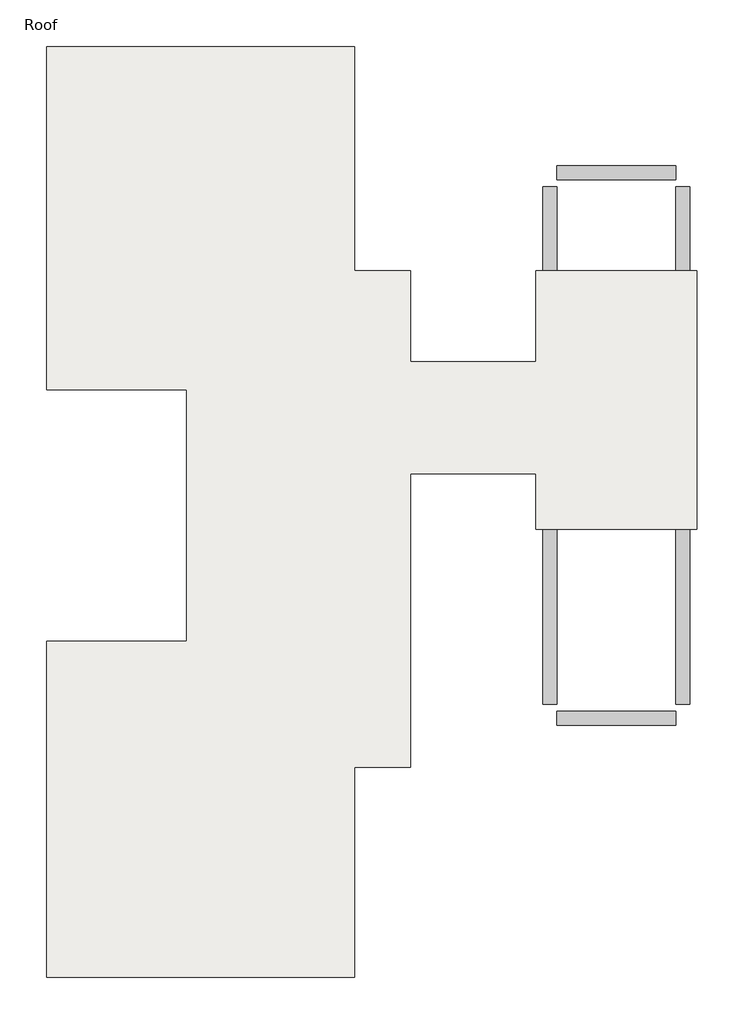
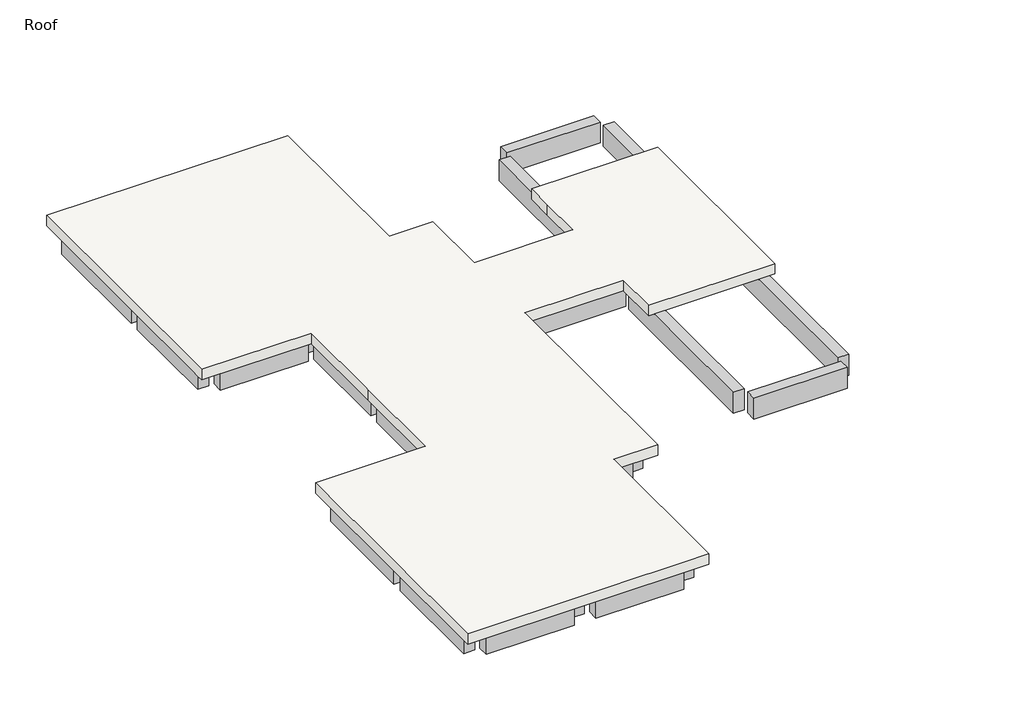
# One storey: 45 beams, 1 slab.
"""IFC4 building model written with IfcOpenShell, lengths in millimetres."""

from ifc_helpers import new_model, si_unit, frame, origin, place, context, project, spatial, polyline, outline, extrude, faceted_brep, element, save

model = new_model("IFC4")

# Units and contexts
model_context = context("Model", 3, world=origin())
ifc_project = project(units=[si_unit("LENGTHUNIT", "METRE", prefix="MILLI")], contexts=[model_context])

# Site, building, storey
site = spatial("IfcSite", under=ifc_project)
building = spatial("IfcBuilding", under=site)
storey = spatial("IfcBuildingStorey", under=building, Name="Roof", Elevation=7620.0)

# Beams
placement = place(None, origin())
element("IfcBeam", 1, ObjectType="Concrete-Rectangular Beam : 12 x 24", at=placement, inside=storey, context=model_context, shape_type="SweptSolid", body=[
    extrude(outline(polyline([(-12629.5554735, 14646.9867088), (-12629.5554735, 14342.1867088), (-15067.9554735, 14342.1867088), (-15067.9554735, 14646.9867088), (-12629.5554735, 14646.9867088)])), frame((0.0, 0.0, 6705.6), z_axis=(0.0, 0.0, 1.0), x_axis=(1.0, 0.0, 0.0)), (0.0, 0.0, 1.0), 609.6),
])
element("IfcBeam", 2, ObjectType="Concrete-Rectangular Beam : 12 x 24", at=placement, inside=storey, context=model_context, shape_type="SweptSolid", body=[
    extrude(outline(polyline([(-9581.5554735, 14646.9867088), (-9581.5554735, 14342.1867088), (-12019.9554735, 14342.1867088), (-12019.9554735, 14646.9867088), (-9581.5554735, 14646.9867088)])), frame((0.0, 0.0, 6705.6), z_axis=(0.0, 0.0, 1.0), x_axis=(1.0, 0.0, 0.0)), (0.0, 0.0, 1.0), 609.6),
])
element("IfcBeam", 3, ObjectType="Concrete-Rectangular Beam : 12 x 24", at=placement, inside=storey, context=model_context, shape_type="SweptSolid", body=[
    extrude(outline(polyline([(-15525.1554735, 14342.1867088), (-15220.3554735, 14342.1867088), (-15220.3554735, 10989.3867088), (-15525.1554735, 10989.3867088), (-15525.1554735, 14342.1867088)])), frame((0.0, 0.0, 6705.6), z_axis=(0.0, 0.0, 1.0), x_axis=(1.0, 0.0, 0.0)), (0.0, 0.0, 1.0), 609.6),
])
element("IfcBeam", 4, ObjectType="Concrete-Rectangular Beam : 12 x 24", at=placement, inside=storey, context=model_context, shape_type="SweptSolid", body=[
    extrude(outline(polyline([(-12629.5554735, 10989.3867088), (-12629.5554735, 10684.5867088), (-15067.9554735, 10684.5867088), (-15067.9554735, 10989.3867088), (-12629.5554735, 10989.3867088)])), frame((0.0, 0.0, 6705.6), z_axis=(0.0, 0.0, 1.0), x_axis=(1.0, 0.0, 0.0)), (0.0, 0.0, 1.0), 609.6),
])
element("IfcBeam", 5, ObjectType="Concrete-Rectangular Beam : 12 x 24", at=placement, inside=storey, context=model_context, shape_type="SweptSolid", body=[
    extrude(outline(polyline([(-12019.9554735, 10684.5867088), (-12019.9554735, 10989.3867088), (-9581.5554735, 10989.3867088), (-9581.5554735, 10684.5867088), (-12019.9554735, 10684.5867088)])), frame((0.0, 0.0, 6705.6), z_axis=(0.0, 0.0, 1.0), x_axis=(1.0, 0.0, 0.0)), (0.0, 0.0, 1.0), 609.6),
])
element("IfcBeam", 6, ObjectType="Concrete-Rectangular Beam : 12 x 24", at=placement, inside=storey, context=model_context, shape_type="SweptSolid", body=[
    extrude(outline(polyline([(-12172.3554735, 10989.3867088), (-12477.1554735, 10989.3867088), (-12477.1554735, 14342.1867088), (-12172.3554735, 14342.1867088), (-12172.3554735, 10989.3867088)])), frame((0.0, 0.0, 6705.6), z_axis=(0.0, 0.0, 1.0), x_axis=(1.0, 0.0, 0.0)), (0.0, 0.0, 1.0), 609.6),
])
element("IfcBeam", 7, ObjectType="Concrete-Rectangular Beam : 12 x 24", at=placement, inside=storey, context=model_context, shape_type="SweptSolid", body=[
    extrude(outline(polyline([(-9124.3554735, 10989.3867088), (-9429.1554735, 10989.3867088), (-9429.1554735, 14342.1867088), (-9124.3554735, 14342.1867088), (-9124.3554735, 10989.3867088)])), frame((0.0, 0.0, 6705.6), z_axis=(0.0, 0.0, 1.0), x_axis=(1.0, 0.0, 0.0)), (0.0, 0.0, 1.0), 609.6),
])
element("IfcBeam", 8, ObjectType="Concrete-Rectangular Beam : 12 x 24", at=placement, inside=storey, context=model_context, shape_type="Brep", body=[
    faceted_brep([(-9124.3554735, 10684.5867088, 7315.2), (-9429.1554735, 10684.5867088, 7315.2), (-9429.1554735, 9465.3867088, 7315.2), (-9124.3554735, 9465.3867088, 7315.2), (-9124.3554735, 9770.1867088, 7315.2), (-9429.1554735, 10684.5867088, 6705.6), (-9429.1554735, 9465.3867088, 6705.6), (-9124.3554735, 10684.5867088, 6705.6), (-9124.3554735, 9770.1867088, 6705.6), (-9124.3554735, 9465.3867088, 6705.6)], [[[0, 1, 2, 3, 4]], [[1, 5, 6, 2]], [[5, 7, 8, 9, 6]], [[7, 0, 4, 3, 9, 8]], [[0, 7, 5, 1]], [[3, 2, 6, 9]]]),
])
element("IfcBeam", 9, ObjectType="Concrete-Rectangular Beam : 12 x 24", at=placement, inside=storey, context=model_context, shape_type="SweptSolid", body=[
    extrude(outline(polyline([(-8362.3554735, 9770.1867088), (-8362.3554735, 9465.3867088), (-9124.3554735, 9465.3867088), (-9124.3554735, 9770.1867088), (-8362.3554735, 9770.1867088)])), frame((0.0, 0.0, 6705.6), z_axis=(0.0, 0.0, 1.0), x_axis=(1.0, 0.0, 0.0)), (0.0, 0.0, 1.0), 609.6),
])
element("IfcBeam", 10, ObjectType="Concrete-Rectangular Beam : 12 x 24", at=placement, inside=storey, context=model_context, shape_type="SweptSolid", body=[
    extrude(outline(polyline([(-7905.1554735, 7788.9867088), (-8209.9554735, 7788.9867088), (-8209.9554735, 9465.3867088), (-7905.1554735, 9465.3867088), (-7905.1554735, 7788.9867088)])), frame((0.0, 0.0, 6705.6), z_axis=(0.0, 0.0, 1.0), x_axis=(1.0, 0.0, 0.0)), (0.0, 0.0, 1.0), 609.6),
])
element("IfcBeam", 11, ObjectType="Concrete-Rectangular Beam : 12 x 24", at=placement, inside=storey, context=model_context, shape_type="SweptSolid", body=[
    extrude(outline(polyline([(-7752.7554735, 7484.1867088), (-7752.7554735, 7788.9867088), (-4857.1554735, 7788.9867088), (-4857.1554735, 7484.1867088), (-7752.7554735, 7484.1867088)])), frame((0.0, 0.0, 6705.6), z_axis=(0.0, 0.0, 1.0), x_axis=(1.0, 0.0, 0.0)), (0.0, 0.0, 1.0), 609.6),
])
element("IfcBeam", 12, ObjectType="Concrete-Rectangular Beam : 12 x 24", at=placement, inside=storey, context=model_context, shape_type="SweptSolid", body=[
    extrude(outline(polyline([(-4552.3554735, 7484.1867088), (-4552.3554735, 7788.9867088), (-1961.5554735, 7788.9867088), (-1961.5554735, 7484.1867088), (-4552.3554735, 7484.1867088)])), frame((0.0, 0.0, 6705.6), z_axis=(0.0, 0.0, 1.0), x_axis=(1.0, 0.0, 0.0)), (0.0, 0.0, 1.0), 609.6),
])
element("IfcBeam", 13, ObjectType="Concrete-Rectangular Beam : 12 x 24", at=placement, inside=storey, context=model_context, shape_type="SweptSolid", body=[
    extrude(outline(polyline([(-4552.3554735, 5655.3867088), (-4552.3554735, 5960.1867088), (-1961.5554735, 5960.1867088), (-1961.5554735, 5655.3867088), (-4552.3554735, 5655.3867088)])), frame((0.0, 0.0, 6705.6), z_axis=(0.0, 0.0, 1.0), x_axis=(1.0, 0.0, 0.0)), (0.0, 0.0, 1.0), 609.6),
])
element("IfcBeam", 14, ObjectType="Concrete-Rectangular Beam : 12 x 24", at=placement, inside=storey, context=model_context, shape_type="SweptSolid", body=[
    extrude(outline(polyline([(-7905.1554735, 5655.3867088), (-7905.1554735, 5960.1867088), (-4857.1554735, 5960.1867088), (-4857.1554735, 5655.3867088), (-7905.1554735, 5655.3867088)])), frame((0.0, 0.0, 6705.6), z_axis=(0.0, 0.0, 1.0), x_axis=(1.0, 0.0, 0.0)), (0.0, 0.0, 1.0), 609.6),
])
element("IfcBeam", 15, ObjectType="Concrete-Rectangular Beam : 12 x 24", at=placement, inside=storey, context=model_context, shape_type="Brep", body=[
    faceted_brep([(-8209.9554735, 4740.9867088, 7315.2), (-7905.1554735, 4740.9867088, 7315.2), (-7905.1554735, 5655.3867088, 7315.2), (-7905.1554735, 5960.1867088, 7315.2), (-7905.1554735, 7484.1867088, 7315.2), (-8209.9554735, 7484.1867088, 7315.2), (-8209.9554735, 4740.9867088, 6705.6), (-8209.9554735, 7484.1867088, 6705.6), (-7905.1554735, 4740.9867088, 6705.6), (-7905.1554735, 7484.1867088, 6705.6), (-7905.1554735, 5960.1867088, 6705.6), (-7905.1554735, 5655.3867088, 6705.6)], [[[0, 1, 2, 3, 4, 5]], [[6, 0, 5, 7]], [[8, 6, 7, 9, 10, 11]], [[1, 8, 11, 10, 9, 4, 3, 2]], [[4, 9, 7, 5]], [[1, 0, 6, 8]]]),
])
element("IfcBeam", 16, ObjectType="Concrete-Rectangular Beam : 12 x 24", at=placement, inside=storey, context=model_context, shape_type="SweptSolid", body=[
    extrude(outline(polyline([(-12629.5554735, -5012.6132912), (-12629.5554735, -5317.4132912), (-15067.9554735, -5317.4132912), (-15067.9554735, -5012.6132912), (-12629.5554735, -5012.6132912)])), frame((0.0, 0.0, 6705.6), z_axis=(0.0, 0.0, 1.0), x_axis=(1.0, 0.0, 0.0)), (0.0, 0.0, 1.0), 609.6),
])
element("IfcBeam", 17, ObjectType="Concrete-Rectangular Beam : 12 x 24", at=placement, inside=storey, context=model_context, shape_type="SweptSolid", body=[
    extrude(outline(polyline([(-15525.1554735, -1964.6132912), (-15220.3554735, -1964.6132912), (-15220.3554735, -5012.6132912), (-15525.1554735, -5012.6132912), (-15525.1554735, -1964.6132912)])), frame((0.0, 0.0, 6705.6), z_axis=(0.0, 0.0, 1.0), x_axis=(1.0, 0.0, 0.0)), (0.0, 0.0, 1.0), 609.6),
])
element("IfcBeam", 18, ObjectType="Concrete-Rectangular Beam : 12 x 24", at=placement, inside=storey, context=model_context, shape_type="SweptSolid", body=[
    extrude(outline(polyline([(-15067.9554735, -1964.6132912), (-15067.9554735, -1659.8132912), (-12629.5554735, -1659.8132912), (-12629.5554735, -1964.6132912), (-15067.9554735, -1964.6132912)])), frame((0.0, 0.0, 6705.6), z_axis=(0.0, 0.0, 1.0), x_axis=(1.0, 0.0, 0.0)), (0.0, 0.0, 1.0), 609.6),
])
element("IfcBeam", 19, ObjectType="Concrete-Rectangular Beam : 12 x 24", at=placement, inside=storey, context=model_context, shape_type="SweptSolid", body=[
    extrude(outline(polyline([(-12172.3554735, -5012.6132912), (-12477.1554735, -5012.6132912), (-12477.1554735, -1964.6132912), (-12172.3554735, -1964.6132912), (-12172.3554735, -5012.6132912)])), frame((0.0, 0.0, 6705.6), z_axis=(0.0, 0.0, 1.0), x_axis=(1.0, 0.0, 0.0)), (0.0, 0.0, 1.0), 609.6),
])
element("IfcBeam", 20, ObjectType="Concrete-Rectangular Beam : 12 x 24", at=placement, inside=storey, context=model_context, shape_type="SweptSolid", body=[
    extrude(outline(polyline([(-9581.5554735, -5012.6132912), (-9581.5554735, -5317.4132912), (-12019.9554735, -5317.4132912), (-12019.9554735, -5012.6132912), (-9581.5554735, -5012.6132912)])), frame((0.0, 0.0, 6705.6), z_axis=(0.0, 0.0, 1.0), x_axis=(1.0, 0.0, 0.0)), (0.0, 0.0, 1.0), 609.6),
])
element("IfcBeam", 21, ObjectType="Concrete-Rectangular Beam : 12 x 24", at=placement, inside=storey, context=model_context, shape_type="SweptSolid", body=[
    extrude(outline(polyline([(-9124.3554735, -5012.6132912), (-9429.1554735, -5012.6132912), (-9429.1554735, -1964.6132912), (-9124.3554735, -1964.6132912), (-9124.3554735, -5012.6132912)])), frame((0.0, 0.0, 6705.6), z_axis=(0.0, 0.0, 1.0), x_axis=(1.0, 0.0, 0.0)), (0.0, 0.0, 1.0), 609.6),
])
element("IfcBeam", 22, ObjectType="Concrete-Rectangular Beam : 12 x 24", at=placement, inside=storey, context=model_context, shape_type="SweptSolid", body=[
    extrude(outline(polyline([(-9581.5554735, -1659.8132912), (-9581.5554735, -1964.6132912), (-12019.9554735, -1964.6132912), (-12019.9554735, -1659.8132912), (-9581.5554735, -1659.8132912)])), frame((0.0, 0.0, 6705.6), z_axis=(0.0, 0.0, 1.0), x_axis=(1.0, 0.0, 0.0)), (0.0, 0.0, 1.0), 609.6),
])
element("IfcBeam", 23, ObjectType="Concrete-Rectangular Beam : 12 x 24", at=placement, inside=storey, context=model_context, shape_type="Brep", body=[
    faceted_brep([(-8362.3554735, -745.4132912, 7315.2), (-8362.3554735, -440.6132912, 7315.2), (-9429.1554735, -440.6132912, 7315.2), (-9429.1554735, -745.4132912, 7315.2), (-9124.3554735, -745.4132912, 7315.2), (-8362.3554735, -440.6132912, 6705.6), (-9429.1554735, -440.6132912, 6705.6), (-8362.3554735, -745.4132912, 6705.6), (-9124.3554735, -745.4132912, 6705.6), (-9429.1554735, -745.4132912, 6705.6)], [[[0, 1, 2, 3, 4]], [[1, 5, 6, 2]], [[5, 7, 8, 9, 6]], [[7, 0, 4, 3, 9, 8]], [[0, 7, 5, 1]], [[3, 2, 6, 9]]]),
])
element("IfcBeam", 24, ObjectType="Concrete-Rectangular Beam : 12 x 24", at=placement, inside=storey, context=model_context, shape_type="SweptSolid", body=[
    extrude(outline(polyline([(-9124.3554735, -1659.8132912), (-9429.1554735, -1659.8132912), (-9429.1554735, -745.4132912), (-9124.3554735, -745.4132912), (-9124.3554735, -1659.8132912)])), frame((0.0, 0.0, 6705.6), z_axis=(0.0, 0.0, 1.0), x_axis=(1.0, 0.0, 0.0)), (0.0, 0.0, 1.0), 609.6),
])
element("IfcBeam", 25, ObjectType="Concrete-Rectangular Beam : 12 x 24", at=placement, inside=storey, context=model_context, shape_type="SweptSolid", body=[
    extrude(outline(polyline([(-8209.9554735, 1388.1867088), (-7905.1554735, 1388.1867088), (-7905.1554735, -440.6132912), (-8209.9554735, -440.6132912), (-8209.9554735, 1388.1867088)])), frame((0.0, 0.0, 6705.6), z_axis=(0.0, 0.0, 1.0), x_axis=(1.0, 0.0, 0.0)), (0.0, 0.0, 1.0), 609.6),
])
element("IfcBeam", 26, ObjectType="Concrete-Rectangular Beam : 12 x 24", at=placement, inside=storey, context=model_context, shape_type="SweptSolid", body=[
    extrude(outline(polyline([(-7905.1554735, 1692.9867088), (-8209.9554735, 1692.9867088), (-8209.9554735, 4436.1867088), (-7905.1554735, 4436.1867088), (-7905.1554735, 1692.9867088)])), frame((0.0, 0.0, 6705.6), z_axis=(0.0, 0.0, 1.0), x_axis=(1.0, 0.0, 0.0)), (0.0, 0.0, 1.0), 609.6),
])
element("IfcBeam", 27, ObjectType="Concrete-Rectangular Beam : 12 x 24", at=placement, inside=storey, context=model_context, shape_type="SweptSolid", body=[
    extrude(outline(polyline([(-15525.1554735, 1388.1867088), (-15220.3554735, 1388.1867088), (-15220.3554735, -1659.8132912), (-15525.1554735, -1659.8132912), (-15525.1554735, 1388.1867088)])), frame((0.0, 0.0, 6705.6), z_axis=(0.0, 0.0, 1.0), x_axis=(1.0, 0.0, 0.0)), (0.0, 0.0, 1.0), 609.6),
])
element("IfcBeam", 28, ObjectType="Concrete-Rectangular Beam : 12 x 24", at=placement, inside=storey, context=model_context, shape_type="SweptSolid", body=[
    extrude(outline(polyline([(-12629.5554735, 1692.9867088), (-12629.5554735, 1388.1867088), (-15067.9554735, 1388.1867088), (-15067.9554735, 1692.9867088), (-12629.5554735, 1692.9867088)])), frame((0.0, 0.0, 6705.6), z_axis=(0.0, 0.0, 1.0), x_axis=(1.0, 0.0, 0.0)), (0.0, 0.0, 1.0), 609.6),
])
element("IfcBeam", 29, ObjectType="Concrete-Rectangular Beam : 12 x 24", at=placement, inside=storey, context=model_context, shape_type="SweptSolid", body=[
    extrude(outline(polyline([(-12172.3554735, -1659.8132912), (-12477.1554735, -1659.8132912), (-12477.1554735, 1388.1867088), (-12172.3554735, 1388.1867088), (-12172.3554735, -1659.8132912)])), frame((0.0, 0.0, 6705.6), z_axis=(0.0, 0.0, 1.0), x_axis=(1.0, 0.0, 0.0)), (0.0, 0.0, 1.0), 609.6),
])
element("IfcBeam", 30, ObjectType="Concrete-Rectangular Beam : 12 x 24", at=placement, inside=storey, context=model_context, shape_type="SweptSolid", body=[
    extrude(outline(polyline([(-12019.9554735, 1388.1867088), (-12019.9554735, 1692.9867088), (-8362.3554735, 1692.9867088), (-8362.3554735, 1388.1867088), (-12019.9554735, 1388.1867088)])), frame((0.0, 0.0, 6705.6), z_axis=(0.0, 0.0, 1.0), x_axis=(1.0, 0.0, 0.0)), (0.0, 0.0, 1.0), 609.6),
])
element("IfcBeam", 31, ObjectType="Concrete-Rectangular Beam : 12 x 24", at=placement, inside=storey, context=model_context, shape_type="SweptSolid", body=[
    extrude(outline(polyline([(-12172.3554735, 1692.9867088), (-12477.1554735, 1692.9867088), (-12477.1554735, 4436.1867088), (-12172.3554735, 4436.1867088), (-12172.3554735, 1692.9867088)])), frame((0.0, 0.0, 6705.6), z_axis=(0.0, 0.0, 1.0), x_axis=(1.0, 0.0, 0.0)), (0.0, 0.0, 1.0), 609.6),
])
element("IfcBeam", 32, ObjectType="Concrete-Rectangular Beam : 12 x 24", at=placement, inside=storey, context=model_context, shape_type="SweptSolid", body=[
    extrude(outline(polyline([(-12019.9554735, 4436.1867088), (-12019.9554735, 4740.9867088), (-8362.3554735, 4740.9867088), (-8362.3554735, 4436.1867088), (-12019.9554735, 4436.1867088)])), frame((0.0, 0.0, 6705.6), z_axis=(0.0, 0.0, 1.0), x_axis=(1.0, 0.0, 0.0)), (0.0, 0.0, 1.0), 609.6),
])
element("IfcBeam", 33, ObjectType="Concrete-Rectangular Beam : 12 x 24", at=placement, inside=storey, context=model_context, shape_type="SweptSolid", body=[
    extrude(outline(polyline([(-15220.3554735, 7788.9867088), (-15525.1554735, 7788.9867088), (-15525.1554735, 10684.5867088), (-15220.3554735, 10684.5867088), (-15220.3554735, 7788.9867088)])), frame((0.0, 0.0, 6705.6), z_axis=(0.0, 0.0, 1.0), x_axis=(1.0, 0.0, 0.0)), (0.0, 0.0, 1.0), 609.6),
])
element("IfcBeam", 34, ObjectType="Concrete-Rectangular Beam : 12 x 24", at=placement, inside=storey, context=model_context, shape_type="SweptSolid", body=[
    extrude(outline(polyline([(-12172.3554735, 7788.9867088), (-12477.1554735, 7788.9867088), (-12477.1554735, 10684.5867088), (-12172.3554735, 10684.5867088), (-12172.3554735, 7788.9867088)])), frame((0.0, 0.0, 6705.6), z_axis=(0.0, 0.0, 1.0), x_axis=(1.0, 0.0, 0.0)), (0.0, 0.0, 1.0), 609.6),
])
element("IfcBeam", 35, ObjectType="Concrete-Rectangular Beam : 12 x 24", at=placement, inside=storey, context=model_context, shape_type="SweptSolid", body=[
    extrude(outline(polyline([(-12019.9554735, 7484.1867088), (-12019.9554735, 7788.9867088), (-8362.3554735, 7788.9867088), (-8362.3554735, 7484.1867088), (-12019.9554735, 7484.1867088)])), frame((0.0, 0.0, 6705.6), z_axis=(0.0, 0.0, 1.0), x_axis=(1.0, 0.0, 0.0)), (0.0, 0.0, 1.0), 609.6),
])
element("IfcBeam", 36, ObjectType="Concrete-Rectangular Beam : 12 x 24", at=placement, inside=storey, context=model_context, shape_type="SweptSolid", body=[
    extrude(outline(polyline([(-12477.1554735, 7484.1867088), (-12172.3554735, 7484.1867088), (-12172.3554735, 4740.9867088), (-12477.1554735, 4740.9867088), (-12477.1554735, 7484.1867088)])), frame((0.0, 0.0, 6705.6), z_axis=(0.0, 0.0, 1.0), x_axis=(1.0, 0.0, 0.0)), (0.0, 0.0, 1.0), 609.6),
])
element("IfcBeam", 37, ObjectType="Concrete-Rectangular Beam : 12 x 24", at=placement, inside=storey, context=model_context, shape_type="SweptSolid", body=[
    extrude(outline(polyline([(-15067.9554735, 7484.1867088), (-15067.9554735, 7788.9867088), (-12629.5554735, 7788.9867088), (-12629.5554735, 7484.1867088), (-15067.9554735, 7484.1867088)])), frame((0.0, 0.0, 6705.6), z_axis=(0.0, 0.0, 1.0), x_axis=(1.0, 0.0, 0.0)), (0.0, 0.0, 1.0), 609.6),
])
element("IfcBeam", 38, ObjectType="Concrete-Rectangular Beam : 12 x 24", at=placement, inside=storey, context=model_context, shape_type="SweptSolid", body=[
    extrude(outline(polyline([(-4552.3554735, 16.5867088), (-4552.3554735, 321.3867088), (-1961.5554735, 321.3867088), (-1961.5554735, 16.5867088), (-4552.3554735, 16.5867088)])), frame((0.0, 0.0, 6705.6), z_axis=(0.0, 0.0, 1.0), x_axis=(1.0, 0.0, 0.0)), (0.0, 0.0, 1.0), 609.6),
])
element("IfcBeam", 39, ObjectType="Concrete-Rectangular Beam : 12 x 24", at=placement, inside=storey, context=model_context, shape_type="SweptSolid", body=[
    extrude(outline(polyline([(-4857.1554735, 7331.7867088), (-4552.3554735, 7331.7867088), (-4552.3554735, 6112.5867088), (-4857.1554735, 6112.5867088), (-4857.1554735, 7331.7867088)])), frame((0.0, 0.0, 6705.6), z_axis=(0.0, 0.0, 1.0), x_axis=(1.0, 0.0, 0.0)), (0.0, 0.0, 1.0), 609.6),
])
element("IfcBeam", 40, ObjectType="Concrete-Rectangular Beam : 12 x 24", at=placement, inside=storey, context=model_context, shape_type="SweptSolid", body=[
    extrude(outline(polyline([(-4552.3554735, 7941.3867088), (-4857.1554735, 7941.3867088), (-4857.1554735, 11751.3867088), (-4552.3554735, 11751.3867088), (-4552.3554735, 7941.3867088)])), frame((0.0, 0.0, 6705.6), z_axis=(0.0, 0.0, 1.0), x_axis=(1.0, 0.0, 0.0)), (0.0, 0.0, 1.0), 609.6),
])
element("IfcBeam", 41, ObjectType="Concrete-Rectangular Beam : 12 x 24", at=placement, inside=storey, context=model_context, shape_type="SweptSolid", body=[
    extrude(outline(polyline([(-4552.3554735, 11903.7867088), (-4552.3554735, 12208.5867088), (-1961.5554735, 12208.5867088), (-1961.5554735, 11903.7867088), (-4552.3554735, 11903.7867088)])), frame((0.0, 0.0, 6705.6), z_axis=(0.0, 0.0, 1.0), x_axis=(1.0, 0.0, 0.0)), (0.0, 0.0, 1.0), 609.6),
])
element("IfcBeam", 42, ObjectType="Concrete-Rectangular Beam : 12 x 24", at=placement, inside=storey, context=model_context, shape_type="SweptSolid", body=[
    extrude(outline(polyline([(-1656.7554735, 7941.3867088), (-1961.5554735, 7941.3867088), (-1961.5554735, 11751.3867088), (-1656.7554735, 11751.3867088), (-1656.7554735, 7941.3867088)])), frame((0.0, 0.0, 6705.6), z_axis=(0.0, 0.0, 1.0), x_axis=(1.0, 0.0, 0.0)), (0.0, 0.0, 1.0), 609.6),
])
element("IfcBeam", 43, ObjectType="Concrete-Rectangular Beam : 12 x 24", at=placement, inside=storey, context=model_context, shape_type="SweptSolid", body=[
    extrude(outline(polyline([(-1961.5554735, 7331.7867088), (-1656.7554735, 7331.7867088), (-1656.7554735, 6112.5867088), (-1961.5554735, 6112.5867088), (-1961.5554735, 7331.7867088)])), frame((0.0, 0.0, 6705.6), z_axis=(0.0, 0.0, 1.0), x_axis=(1.0, 0.0, 0.0)), (0.0, 0.0, 1.0), 609.6),
])
element("IfcBeam", 44, ObjectType="Concrete-Rectangular Beam : 12 x 24", at=placement, inside=storey, context=model_context, shape_type="SweptSolid", body=[
    extrude(outline(polyline([(-1961.5554735, 5502.9867088), (-1656.7554735, 5502.9867088), (-1656.7554735, 473.7867088), (-1961.5554735, 473.7867088), (-1961.5554735, 5502.9867088)])), frame((0.0, 0.0, 6705.6), z_axis=(0.0, 0.0, 1.0), x_axis=(1.0, 0.0, 0.0)), (0.0, 0.0, 1.0), 609.6),
])
element("IfcBeam", 45, ObjectType="Concrete-Rectangular Beam : 12 x 24", at=placement, inside=storey, context=model_context, shape_type="SweptSolid", body=[
    extrude(outline(polyline([(-4857.1554735, 5502.9867088), (-4552.3554735, 5502.9867088), (-4552.3554735, 473.7867088), (-4857.1554735, 473.7867088), (-4857.1554735, 5502.9867088)])), frame((0.0, 0.0, 6705.6), z_axis=(0.0, 0.0, 1.0), x_axis=(1.0, 0.0, 0.0)), (0.0, 0.0, 1.0), 609.6),
])

# Slab
element("IfcSlab", 46, ObjectType="Generic - 12\"", at=placement, inside=storey, context=model_context, shape_type="Brep", body=[
    faceted_brep([(-8971.9554735, 14799.3867088, 7315.2), (-8971.9554735, 14646.9867088, 7315.2), (-8971.9554735, 14342.1867088, 7315.2), (-8971.9554735, 10989.3867088, 7315.2), (-8971.9554735, 10684.5867088, 7315.2), (-8971.9554735, 9922.5867088, 7315.2), (-7752.7554735, 9922.5867088, 7315.2), (-7752.7554735, 9770.1867088, 7315.2), (-7752.7554735, 9465.3867088, 7315.2), (-7752.7554735, 7941.3867088, 7315.2), (-5009.5554735, 7941.3867088, 7315.2), (-5009.5554735, 9160.5867088, 7315.2), (-5009.5554735, 9922.5867088, 7315.2), (-1504.3554735, 9922.5867088, 7315.2), (-1504.3554735, 4283.7867088, 7315.2), (-5009.5554735, 4283.7867088, 7315.2), (-5009.5554735, 5502.9867088, 7315.2), (-7752.7554735, 5502.9867088, 7315.2), (-7752.7554735, 4740.9867088, 7315.2), (-7752.7554735, 4436.1867088, 7315.2), (-7752.7554735, 1692.9867088, 7315.2), (-7752.7554735, 1388.1867088, 7315.2), (-7752.7554735, -440.6132912, 7315.2), (-7752.7554735, -745.4132912, 7315.2), (-7752.7554735, -897.8132912, 7315.2), (-8971.9554735, -897.8132912, 7315.2), (-8971.9554735, -1659.8132912, 7315.2), (-8971.9554735, -1964.6132912, 7315.2), (-8971.9554735, -5012.6132912, 7315.2), (-8971.9554735, -5317.4132912, 7315.2), (-8971.9554735, -5469.8132912, 7315.2), (-15677.5554735, -5469.8132912, 7315.2), (-15677.5554735, -5317.4132912, 7315.2), (-15677.5554735, -5012.6132912, 7315.2), (-15677.5554735, -1964.6132912, 7315.2), (-15677.5554735, -1659.8132912, 7315.2), (-15677.5554735, 1388.1867088, 7315.2), (-15677.5554735, 1692.9867088, 7315.2), (-15677.5554735, 1845.3867088, 7315.2), (-12629.5554735, 1845.3867088, 7315.2), (-12629.5554735, 4436.1867088, 7315.2), (-12629.5554735, 4588.5867088, 7315.2), (-12629.5554735, 4740.9867088, 7315.2), (-12629.5554735, 7331.7867088, 7315.2), (-15677.5554735, 7331.7867088, 7315.2), (-15677.5554735, 7484.1867088, 7315.2), (-15677.5554735, 7788.9867088, 7315.2), (-15677.5554735, 10684.5867088, 7315.2), (-15677.5554735, 10989.3867088, 7315.2), (-15677.5554735, 14342.1867088, 7315.2), (-15677.5554735, 14646.9867088, 7315.2), (-15677.5554735, 14799.3867088, 7315.2), (-8971.9554735, 14799.3867088, 7620.0), (-15677.5554735, 14799.3867088, 7620.0), (-15677.5554735, 7331.7867088, 7620.0), (-12629.5554735, 7331.7867088, 7620.0), (-12629.5554735, 4588.5867088, 7620.0), (-12629.5554735, 1845.3867088, 7620.0), (-15677.5554735, 1845.3867088, 7620.0), (-15677.5554735, -5469.8132912, 7620.0), (-8971.9554735, -5469.8132912, 7620.0), (-8971.9554735, -897.8132912, 7620.0), (-7752.7554735, -897.8132912, 7620.0), (-7752.7554735, 5502.9867088, 7620.0), (-5009.5554735, 5502.9867088, 7620.0), (-5009.5554735, 4283.7867088, 7620.0), (-1504.3554735, 4283.7867088, 7620.0), (-1504.3554735, 9922.5867088, 7620.0), (-5009.5554735, 9922.5867088, 7620.0), (-5009.5554735, 9160.5867088, 7620.0), (-5009.5554735, 7941.3867088, 7620.0), (-7752.7554735, 7941.3867088, 7620.0), (-7752.7554735, 9922.5867088, 7620.0), (-8971.9554735, 9922.5867088, 7620.0)], [[[0, 1, 2, 3, 4, 5, 6, 7, 8, 9, 10, 11, 12, 13, 14, 15, 16, 17, 18, 19, 20, 21, 22, 23, 24, 25, 26, 27, 28, 29, 30, 31, 32, 33, 34, 35, 36, 37, 38, 39, 40, 41, 42, 43, 44, 45, 46, 47, 48, 49, 50, 51]], [[52, 53, 54, 55, 56, 57, 58, 59, 60, 61, 62, 63, 64, 65, 66, 67, 68, 69, 70, 71, 72, 73]], [[5, 4, 3, 2, 1, 0, 52, 73]], [[6, 5, 73, 72]], [[9, 8, 7, 6, 72, 71]], [[10, 9, 71, 70]], [[11, 10, 70, 69]], [[12, 11, 69, 68]], [[13, 12, 68, 67]], [[14, 13, 67, 66]], [[15, 14, 66, 65]], [[16, 15, 65, 64]], [[17, 16, 64, 63]], [[24, 23, 22, 21, 20, 19, 18, 17, 63, 62]], [[25, 24, 62, 61]], [[30, 29, 28, 27, 26, 25, 61, 60]], [[31, 30, 60, 59]], [[38, 37, 36, 35, 34, 33, 32, 31, 59, 58]], [[39, 38, 58, 57]], [[41, 40, 39, 57, 56]], [[43, 42, 41, 56, 55]], [[44, 43, 55, 54]], [[51, 50, 49, 48, 47, 46, 45, 44, 54, 53]], [[0, 51, 53, 52]]]),
])

save(model, "model.ifc")
